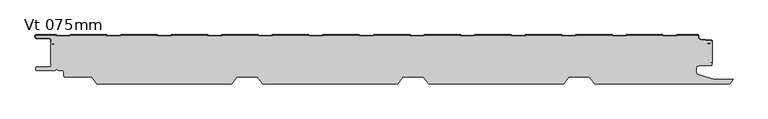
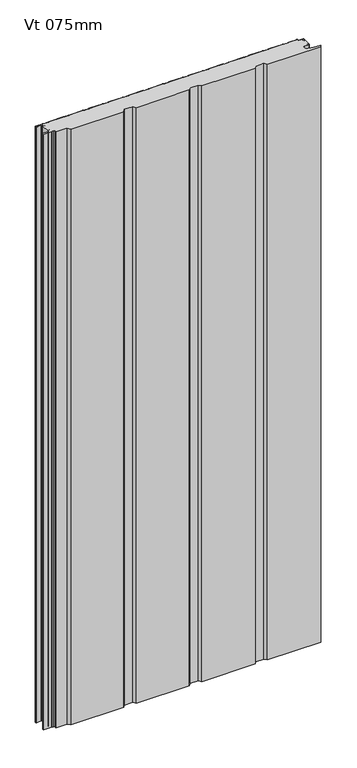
"""IFC4 building model written with IfcOpenShell, lengths in millimetres: plate geometry, KIP-MEX-KW-R19-CP-Vt-KW3_SL : Vt 075mm."""

from ifc_helpers import new_model, si_unit, point, frame, frame_2d, origin, origin_with_axes, place, context, project, spatial, polyline, circle_curve, trimmed, segment, composite_curve, outline, extrude, source, transform, mapped, element, save
from ifc_brep_helpers import plane_surface, cylinder_surface, revolved_surface, advanced_brep


def vt_075mm_114747fd(model_context):
    return source(origin(), model_context, "Body", "SolidModel", [
        advanced_brep(
        [(488.7785899, -14.1740781, 2400.0), (488.6914342, -13.1778834, 2400.0), (494.4799801, -12.6714513, 2400.0), (495.7350457, -11.7512327, 2400.0), (495.7350457, -9.8277288, 2400.0), (494.4792848, -8.9074494, 2400.0), (478.1842394, -7.4894566, 2400.0), (475.4443161, -4.5007512, 2400.0), (475.4443161, -1.0007512, 2400.0), (443.8382986, -1.0007512, 2400.0), (442.7532001, -2.1994992, 2400.0), (422.8212217, -2.1994992, 2400.0), (421.7346975, -1.0, 2400.0), (367.6854138, -1.0, 2400.0), (366.6003153, -2.1994992, 2400.0), (346.668337, -2.1994992, 2400.0), (345.5818127, -1.0, 2400.0), (291.5325291, -1.0, 2400.0), (290.4474305, -2.1994992, 2400.0), (270.5154522, -2.1994992, 2400.0), (269.4289279, -1.0, 2400.0), (215.3796443, -1.0, 2400.0), (214.2945458, -2.1994992, 2400.0), (194.3625675, -2.1994992, 2400.0), (193.2760432, -1.0, 2400.0), (139.2267595, -1.0, 2400.0), (138.141661, -2.1994992, 2400.0), (118.2096827, -2.1994992, 2400.0), (117.1231584, -1.0, 2400.0), (63.0738748, -1.0, 2400.0), (61.9887763, -2.1994992, 2400.0), (42.0567979, -2.1994992, 2400.0), (40.9702737, -1.0, 2400.0), (-13.07901, -1.0, 2400.0), (-14.1641085, -2.1994992, 2400.0), (-34.0960868, -2.1994992, 2400.0), (-35.1826111, -1.0, 2400.0), (-89.230469, -1.0, 2400.0), (-90.3169933, -2.1994992, 2400.0), (-110.2489716, -2.1994992, 2400.0), (-111.3354959, -1.0, 2400.0), (-165.3847795, -1.0, 2400.0), (-166.469878, -2.1994992, 2400.0), (-186.4018563, -2.1994992, 2400.0), (-187.4883806, -1.0, 2400.0), (-241.5362385, -1.0, 2400.0), (-242.6227628, -2.1994992, 2400.0), (-262.5547411, -2.1994992, 2400.0), (-263.6412654, -1.0, 2400.0), (-317.6891233, -1.0, 2400.0), (-318.7756475, -2.1994992, 2400.0), (-338.7076259, -2.1994992, 2400.0), (-339.7941501, -1.0, 2400.0), (-393.842008, -1.0, 2400.0), (-394.9285323, -2.1994992, 2400.0), (-414.8605106, -2.1994992, 2400.0), (-415.9470349, -1.0, 2400.0), (-469.9948928, -1.0, 2400.0), (-471.0814171, -2.1994992, 2400.0), (-491.0133954, -2.1994992, 2400.0), (-492.0999197, -1.0, 2400.0), (-522.505765, -1.0, 2400.0), (-522.505765, -2.5012654, 2400.0), (-520.006135, -5.0008953, 2400.0), (-502.0093092, -5.0008953, 2400.0), (-499.0079862, -8.000131, 2400.0), (-499.0079862, -11.5959732, 2400.0), (-497.766763, -13.0740828, 2400.0), (-494.2244631, -13.6959552, 2400.0), (-494.3973742, -14.6808886, 2400.0), (-497.9396714, -14.0590166, 2400.0), (-500.0000002, -11.7956848, 2400.0), (-500.0000002, -44.3622712, 2400.0), (-497.5115855, -41.8719911, 2400.0), (-492.2480458, -41.8719911, 2400.0), (-492.2480458, -42.8888414, 2400.0), (-497.5062725, -42.8888414, 2400.0), (-499.0056881, -44.3893811, 2400.0), (-499.0056881, -45.8143642, 2400.0), (-502.0059127, -48.8979571, 2400.0), (-521.0430726, -48.8979571, 2400.0), (-522.5064405, -50.3983418, 2400.0), (-522.5064405, -52.3814897, 2400.0), (-521.0062107, -53.8817196, 2400.0), (-493.1202477, -53.8817196, 2400.0), (-490.7060117, -51.4674051, 2400.0), (-488.2917757, -53.8815626, 2400.0), (-482.7060145, -53.8815626, 2400.0), (-479.7060088, -56.8815682, 2400.0), (-479.7060088, -62.3815743, 2400.0), (-478.2556825, -63.8807501, 2400.0), (-438.275811, -63.8807501, 2400.0), (-430.367997, -74.0007512, 2400.0), (-227.3369096, -74.0007512, 2400.0), (-219.3363087, -64.0, 2400.0), (-188.375059, -64.0, 2400.0), (-180.375059, -74.0, 2400.0), (22.6636913, -74.0, 2400.0), (30.6636913, -64.0, 2400.0), (61.624941, -64.0, 2400.0), (69.624941, -74.0, 2400.0), (272.6636913, -74.0, 2400.0), (280.6636913, -64.0, 2400.0), (311.624941, -64.0, 2400.0), (319.6255419, -74.0007512, 2400.0), (522.656057, -74.0007512, 2400.0), (527.9339159, -67.2461374, 2400.0), (499.5757533, -67.2461374, 2400.0), (474.8575959, -60.1479029, 2400.0), (472.6935242, -57.2749195, 2400.0), (472.6935242, -49.8076629, 2400.0), (475.71441, -46.786777, 2400.0), (494.2379226, -46.786777, 2400.0), (495.7320319, -45.2926678, 2400.0), (495.7320319, -43.743257, 2400.0), (494.2336758, -42.244901, 2400.0), (489.7350458, -42.244901, 2400.0), (489.7350458, -41.2447029, 2400.0), (494.2339235, -41.2447029, 2400.0), (496.7325767, -43.7433561, 2400.0), (496.7325767, -11.9319683, 2400.0), (494.5671358, -13.667646, 2400.0), (488.7785899, -14.1740781, 0.0), (494.5671358, -13.667646, 0.0), (496.7325767, -11.9319683, 0.0), (496.7325767, -43.7433561, 0.0), (494.2339235, -41.2447029, 0.0), (489.7350458, -41.2447029, 0.0), (489.7350458, -42.244901, 0.0), (494.2336758, -42.244901, 0.0), (495.7320319, -43.743257, 0.0), (495.7320319, -45.2926678, 0.0), (494.2379226, -46.786777, 0.0), (475.71441, -46.786777, 0.0), (472.6935242, -49.8076629, 0.0), (472.6935242, -57.2749195, 0.0), (474.8575958, -60.1479032, 0.0), (499.5757533, -67.2461374, 0.0), (527.9339159, -67.2461374, 0.0), (522.656057, -74.0007512, 0.0), (319.6255419, -74.0007512, 0.0), (311.624941, -64.0, 0.0), (280.6636913, -64.0, 0.0), (272.6636913, -74.0, 0.0), (69.624941, -74.0, 0.0), (61.624941, -64.0, 0.0), (30.6636913, -64.0, 0.0), (22.6636913, -74.0, 0.0), (-180.375059, -74.0, 0.0), (-188.375059, -64.0, 0.0), (-219.3363087, -64.0, 0.0), (-227.3369096, -74.0007512, 0.0), (-430.367997, -74.0007512, 0.0), (-438.275811, -63.8807501, 0.0), (-478.2556825, -63.8807501, 0.0), (-479.7060088, -62.3815743, 0.0), (-479.7060088, -56.8815682, 0.0), (-482.7060145, -53.8815626, 0.0), (-488.2917757, -53.8815626, 0.0), (-490.7060117, -51.4674051, 0.0), (-493.1202477, -53.8817196, 0.0), (-521.0062107, -53.8817196, 0.0), (-522.5064405, -52.3814897, 0.0), (-522.5064405, -50.3983418, 0.0), (-521.0430726, -48.8979571, 0.0), (-502.0059127, -48.8979571, 0.0), (-499.0056881, -45.8143642, 0.0), (-499.0056881, -44.3893811, 0.0), (-497.5062725, -42.8888414, 0.0), (-492.2480458, -42.8888414, 0.0), (-492.2480458, -41.8719911, 0.0), (-497.5115855, -41.8719911, 0.0), (-500.0000002, -44.3622712, 0.0), (-500.0000002, -11.7956848, 0.0), (-497.9396714, -14.0590167, 0.0), (-494.3973742, -14.6808886, 0.0), (-494.2244631, -13.6959552, 0.0), (-497.766763, -13.0740827, 0.0), (-499.0079862, -11.5959732, 0.0), (-499.0079862, -8.000131, 0.0), (-502.0093092, -5.0008953, 0.0), (-520.006135, -5.0008953, 0.0), (-522.505765, -2.5012654, 0.0), (-522.505765, -1.0, 0.0), (-492.0999197, -1.0, 0.0), (-491.0133954, -2.1994992, 0.0), (-471.0814171, -2.1994992, 0.0), (-469.9948928, -1.0, 0.0), (-415.9470349, -1.0, 0.0), (-414.8605106, -2.1994992, 0.0), (-394.9285323, -2.1994992, 0.0), (-393.842008, -1.0, 0.0), (-339.7941501, -1.0, 0.0), (-338.7076259, -2.1994992, 0.0), (-318.7756475, -2.1994992, 0.0), (-317.6891233, -1.0, 0.0), (-263.6412654, -1.0, 0.0), (-262.5547411, -2.1994992, 0.0), (-242.6227628, -2.1994992, 0.0), (-241.5362385, -1.0, 0.0), (-187.4883806, -1.0, 0.0), (-186.4018563, -2.1994992, 0.0), (-166.469878, -2.1994992, 0.0), (-165.3847795, -1.0, 0.0), (-111.3354959, -1.0, 0.0), (-110.2489716, -2.1994992, 0.0), (-90.3169933, -2.1994992, 0.0), (-89.230469, -1.0, 0.0), (-35.1826111, -1.0, 0.0), (-34.0960868, -2.1994992, 0.0), (-14.1641085, -2.1994992, 0.0), (-13.07901, -1.0, 0.0), (40.9702737, -1.0, 0.0), (42.0567979, -2.1994992, 0.0), (61.9887763, -2.1994992, 0.0), (63.0738748, -1.0, 0.0), (117.1231584, -1.0, 0.0), (118.2096827, -2.1994992, 0.0), (138.141661, -2.1994992, 0.0), (139.2267595, -1.0, 0.0), (193.2760432, -1.0, 0.0), (194.3625675, -2.1994992, 0.0), (214.2945458, -2.1994992, 0.0), (215.3796443, -1.0, 0.0), (269.4289279, -1.0, 0.0), (270.5154522, -2.1994992, 0.0), (290.4474305, -2.1994992, 0.0), (291.5325291, -1.0, 0.0), (345.5818127, -1.0, 0.0), (346.668337, -2.1994992, 0.0), (366.6003153, -2.1994992, 0.0), (367.6854138, -1.0, 0.0), (421.7346975, -1.0, 0.0), (422.8212217, -2.1994992, 0.0), (442.7532001, -2.1994992, 0.0), (443.8382986, -1.0007512, 0.0), (475.4443161, -1.0007512, 0.0), (475.4443161, -4.5007512, 0.0), (478.1842394, -7.4894566, 0.0), (494.4792848, -8.9074494, 0.0), (495.7350457, -9.8277288, 0.0), (495.7350457, -11.7512327, 0.0), (494.4799801, -12.6714513, 0.0), (488.6914342, -13.1778834, 0.0)],
        [
            (0, 1),
            (1, 2),
            (2, 3, circle_curve(frame((494.3492464, -11.1771592, 2400.0), z_axis=(0.0, 0.0, 1.0), x_axis=(-1.0, 0.0, 0.0)), 1.5)),
            (3, 4),
            (4, 5, circle_curve(frame((494.3492464, -10.4018021, 2400.0), z_axis=(0.0, 0.0, 1.0), x_axis=(-1.0, 0.0, 0.0)), 1.4999999)),
            (5, 6),
            (6, 7, circle_curve(frame((478.4443161, -4.5007512, 2400.0), z_axis=(0.0, 0.0, -1.0), x_axis=(-1.0, 0.0, 0.0)), 3.0)),
            (7, 8),
            (8, 9),
            (9, 10),
            (10, 11),
            (11, 12),
            (12, 13),
            (13, 14),
            (14, 15),
            (15, 16),
            (16, 17),
            (17, 18),
            (18, 19),
            (19, 20),
            (20, 21),
            (21, 22),
            (22, 23),
            (23, 24),
            (24, 25),
            (25, 26),
            (26, 27),
            (27, 28),
            (28, 29),
            (29, 30),
            (30, 31),
            (31, 32),
            (32, 33),
            (33, 34),
            (34, 35),
            (35, 36),
            (36, 37),
            (37, 38),
            (38, 39),
            (39, 40),
            (40, 41),
            (41, 42),
            (42, 43),
            (43, 44),
            (44, 45),
            (45, 46),
            (46, 47),
            (47, 48),
            (48, 49),
            (49, 50),
            (50, 51),
            (51, 52),
            (52, 53),
            (53, 54),
            (54, 55),
            (55, 56),
            (56, 57),
            (57, 58),
            (58, 59),
            (59, 60),
            (60, 61),
            (61, 62),
            (62, 63, circle_curve(frame((-520.006135, -2.5012654, 2400.0), z_axis=(0.0, 0.0, 1.0), x_axis=(-1.0, 0.0, 0.0)), 2.4996299)),
            (63, 64),
            (64, 65, circle_curve(frame((-502.0093092, -8.002219, 2400.0), z_axis=(0.0, 0.0, -1.0), x_axis=(-1.0, 0.0, 0.0)), 3.0013237)),
            (65, 66),
            (66, 67, circle_curve(frame((-497.5072719, -11.5959732, 2400.0), z_axis=(0.0, 0.0, 1.0), x_axis=(-1.0, 0.0, 0.0)), 1.5007143)),
            (67, 68),
            (68, 69),
            (69, 70),
            (70, 71, circle_curve(frame((-497.5072673, -11.5959632, 2400.0), z_axis=(0.0, 0.0, -1.0), x_axis=(-1.0, 0.0, 0.0)), 2.500721)),
            (71, 72),
            (72, 73, circle_curve(frame((-497.5097194, -44.3622712, 2400.0), z_axis=(0.0, 0.0, -1.0), x_axis=(0.0, 1.0, 0.0)), 2.4902807)),
            (73, 74),
            (74, 75),
            (75, 76),
            (76, 77, circle_curve(frame((-497.5051479, -44.3893811, 2400.0), z_axis=(0.0, 0.0, 1.0), x_axis=(0.0, 1.0, 0.0)), 1.5005402)),
            (77, 78),
            (78, 79, circle_curve(frame((-502.0059127, -45.8966056, 2400.0), z_axis=(0.0, 0.0, -1.0), x_axis=(0.0, 1.0, 0.0)), 3.0013516)),
            (79, 80),
            (80, 81, circle_curve(frame((-521.0055876, -50.3983418, 2400.0), z_axis=(0.0, 0.0, 1.0), x_axis=(0.0, 1.0, 0.0)), 1.5008529)),
            (81, 82),
            (82, 83, circle_curve(frame((-521.0062107, -52.3814897, 2400.0), z_axis=(0.0, 0.0, 1.0), x_axis=(0.0, 1.0, 0.0)), 1.5002298)),
            (83, 84),
            (84, 85),
            (85, 86),
            (86, 87),
            (87, 88, circle_curve(frame((-482.7060145, -56.8815682, 2400.0), z_axis=(0.0, 0.0, -1.0), x_axis=(0.0, 1.0, 0.0)), 3.0000056)),
            (88, 89),
            (89, 90, circle_curve(frame((-478.2060104, -62.3815743, 2400.0), z_axis=(0.0, 0.0, 1.0), x_axis=(0.0, 1.0, 0.0)), 1.4999984)),
            (90, 91),
            (91, 92),
            (92, 93),
            (93, 94),
            (94, 95),
            (95, 96),
            (96, 97),
            (97, 98),
            (98, 99),
            (99, 100),
            (100, 101),
            (101, 102),
            (102, 103),
            (103, 104),
            (104, 105),
            (105, 106),
            (106, 107),
            (107, 108),
            (108, 109, circle_curve(frame((475.6826214, -57.2749195, 2400.0), z_axis=(0.0, 0.0, -1.0), x_axis=(0.0, 1.0, 0.0)), 2.9890972)),
            (109, 110),
            (110, 111, circle_curve(frame((475.71441, -49.8076629, 2400.0), z_axis=(0.0, 0.0, -1.0), x_axis=(0.0, 1.0, 0.0)), 3.0208858)),
            (111, 112),
            (112, 113, circle_curve(frame((494.2379226, -45.2926678, 2400.0), z_axis=(0.0, 0.0, 1.0), x_axis=(0.0, 1.0, 0.0)), 1.4941093)),
            (113, 114),
            (114, 115, circle_curve(frame((494.2336758, -43.743257, 2400.0), z_axis=(0.0, 0.0, 1.0), x_axis=(0.0, 1.0, 0.0)), 1.4983561)),
            (115, 116),
            (116, 117),
            (117, 118),
            (118, 119, circle_curve(frame((494.2339235, -43.7433561, 2400.0), z_axis=(0.0, 0.0, -1.0), x_axis=(0.0, 1.0, 0.0)), 2.4986532)),
            (119, 120),
            (120, 121, circle_curve(frame((494.3492464, -11.1771592, 2400.0), z_axis=(0.0, 0.0, -1.0), x_axis=(-1.0, 0.0, 0.0)), 2.5)),
            (121, 0),
            (122, 123),
            (123, 124, circle_curve(frame((494.3492464, -11.1771592, 0.0), z_axis=(0.0, 0.0, 1.0), x_axis=(-1.0, 0.0, 0.0)), 2.5)),
            (124, 125),
            (125, 126, circle_curve(frame((494.2339235, -43.7433561, 0.0), z_axis=(0.0, 0.0, 1.0), x_axis=(0.0, 1.0, 0.0)), 2.4986532)),
            (126, 127),
            (127, 128),
            (128, 129),
            (129, 130, circle_curve(frame((494.2336758, -43.743257, 0.0), z_axis=(0.0, 0.0, -1.0), x_axis=(0.0, 1.0, 0.0)), 1.4983561)),
            (130, 131),
            (131, 132, circle_curve(frame((494.2379226, -45.2926678, 0.0), z_axis=(0.0, 0.0, -1.0), x_axis=(0.0, 1.0, 0.0)), 1.4941093)),
            (132, 133),
            (133, 134, circle_curve(frame((475.71441, -49.8076629, 0.0), z_axis=(0.0, 0.0, 1.0), x_axis=(0.0, 1.0, 0.0)), 3.0208858)),
            (134, 135),
            (135, 136, circle_curve(frame((475.6826214, -57.2749195, 0.0), z_axis=(0.0, 0.0, 1.0), x_axis=(0.0, 1.0, 0.0)), 2.9890972)),
            (136, 137),
            (137, 138),
            (138, 139),
            (139, 140),
            (140, 141),
            (141, 142),
            (142, 143),
            (143, 144),
            (144, 145),
            (145, 146),
            (146, 147),
            (147, 148),
            (148, 149),
            (149, 150),
            (150, 151),
            (151, 152),
            (152, 153),
            (153, 154),
            (154, 155, circle_curve(frame((-478.2060104, -62.3815743, 0.0), z_axis=(0.0, 0.0, -1.0), x_axis=(0.0, 1.0, 0.0)), 1.4999984)),
            (155, 156),
            (156, 157, circle_curve(frame((-482.7060145, -56.8815682, 0.0), z_axis=(0.0, 0.0, 1.0), x_axis=(0.0, 1.0, 0.0)), 3.0000056)),
            (157, 158),
            (158, 159),
            (159, 160),
            (160, 161),
            (161, 162, circle_curve(frame((-521.0062107, -52.3814897, 0.0), z_axis=(0.0, 0.0, -1.0), x_axis=(0.0, 1.0, 0.0)), 1.5002298)),
            (162, 163),
            (163, 164, circle_curve(frame((-521.0055876, -50.3983418, 0.0), z_axis=(0.0, 0.0, -1.0), x_axis=(0.0, 1.0, 0.0)), 1.5008529)),
            (164, 165),
            (165, 166, circle_curve(frame((-502.0059127, -45.8966056, 0.0), z_axis=(0.0, 0.0, 1.0), x_axis=(0.0, 1.0, 0.0)), 3.0013516)),
            (166, 167),
            (167, 168, circle_curve(frame((-497.5051479, -44.3893811, 0.0), z_axis=(0.0, 0.0, -1.0), x_axis=(0.0, 1.0, 0.0)), 1.5005402)),
            (168, 169),
            (169, 170),
            (170, 171),
            (171, 172, circle_curve(frame((-497.5097194, -44.3622712, 0.0), z_axis=(0.0, 0.0, 1.0), x_axis=(0.0, 1.0, 0.0)), 2.4902807)),
            (172, 173),
            (173, 174, circle_curve(frame((-497.5072673, -11.5959632, 0.0), z_axis=(0.0, 0.0, 1.0), x_axis=(-1.0, 0.0, 0.0)), 2.500721)),
            (174, 175),
            (175, 176),
            (176, 177),
            (177, 178, circle_curve(frame((-497.5072719, -11.5959732, 0.0), z_axis=(0.0, 0.0, -1.0), x_axis=(-1.0, 0.0, 0.0)), 1.5007143)),
            (178, 179),
            (179, 180, circle_curve(frame((-502.0093092, -8.002219, 0.0), z_axis=(0.0, 0.0, 1.0), x_axis=(-1.0, 0.0, 0.0)), 3.0013237)),
            (180, 181),
            (181, 182, circle_curve(frame((-520.006135, -2.5012654, 0.0), z_axis=(0.0, 0.0, -1.0), x_axis=(-1.0, 0.0, 0.0)), 2.4996299)),
            (182, 183),
            (183, 184),
            (184, 185),
            (185, 186),
            (186, 187),
            (187, 188),
            (188, 189),
            (189, 190),
            (190, 191),
            (191, 192),
            (192, 193),
            (193, 194),
            (194, 195),
            (195, 196),
            (196, 197),
            (197, 198),
            (198, 199),
            (199, 200),
            (200, 201),
            (201, 202),
            (202, 203),
            (203, 204),
            (204, 205),
            (205, 206),
            (206, 207),
            (207, 208),
            (208, 209),
            (209, 210),
            (210, 211),
            (211, 212),
            (212, 213),
            (213, 214),
            (214, 215),
            (215, 216),
            (216, 217),
            (217, 218),
            (218, 219),
            (219, 220),
            (220, 221),
            (221, 222),
            (222, 223),
            (223, 224),
            (224, 225),
            (225, 226),
            (226, 227),
            (227, 228),
            (228, 229),
            (229, 230),
            (230, 231),
            (231, 232),
            (232, 233),
            (233, 234),
            (234, 235),
            (235, 236),
            (236, 237),
            (237, 238, circle_curve(frame((478.4443161, -4.5007512, 0.0), z_axis=(0.0, 0.0, 1.0), x_axis=(-1.0, 0.0, 0.0)), 3.0)),
            (238, 239),
            (239, 240, circle_curve(frame((494.3492464, -10.4018021, 0.0), z_axis=(0.0, 0.0, -1.0), x_axis=(-1.0, 0.0, 0.0)), 1.4999999)),
            (240, 241),
            (241, 242, circle_curve(frame((494.3492464, -11.1771592, 0.0), z_axis=(0.0, 0.0, -1.0), x_axis=(-1.0, 0.0, 0.0)), 1.5)),
            (242, 243),
            (243, 122),
            (121, 123),
            (122, 0),
            (120, 124),
            (119, 125),
            (118, 126),
            (117, 127),
            (116, 128),
            (115, 129),
            (114, 130),
            (113, 131),
            (112, 132),
            (111, 133),
            (110, 134),
            (109, 135),
            (108, 136),
            (107, 137),
            (106, 138),
            (105, 139),
            (104, 140),
            (92, 152),
            (151, 93),
            (91, 153),
            (90, 154),
            (89, 155),
            (88, 156),
            (87, 157),
            (86, 158),
            (85, 159),
            (84, 160),
            (83, 161),
            (82, 162),
            (81, 163),
            (80, 164),
            (79, 165),
            (78, 166),
            (77, 167),
            (76, 168),
            (75, 169),
            (74, 170),
            (73, 171),
            (72, 172),
            (71, 173),
            (70, 174),
            (69, 175),
            (68, 176),
            (67, 177),
            (66, 178),
            (65, 179),
            (64, 180),
            (63, 181),
            (62, 182),
            (61, 183),
            (60, 184),
            (59, 185),
            (58, 186),
            (57, 187),
            (56, 188),
            (55, 189),
            (54, 190),
            (53, 191),
            (52, 192),
            (51, 193),
            (50, 194),
            (49, 195),
            (48, 196),
            (47, 197),
            (46, 198),
            (45, 199),
            (44, 200),
            (43, 201),
            (42, 202),
            (41, 203),
            (40, 204),
            (39, 205),
            (38, 206),
            (37, 207),
            (36, 208),
            (35, 209),
            (34, 210),
            (33, 211),
            (32, 212),
            (31, 213),
            (30, 214),
            (29, 215),
            (28, 216),
            (27, 217),
            (26, 218),
            (25, 219),
            (24, 220),
            (23, 221),
            (22, 222),
            (21, 223),
            (20, 224),
            (19, 225),
            (18, 226),
            (17, 227),
            (16, 228),
            (15, 229),
            (14, 230),
            (13, 231),
            (12, 232),
            (11, 233),
            (10, 234),
            (9, 235),
            (8, 236),
            (7, 237),
            (6, 238),
            (5, 239),
            (4, 240),
            (3, 241),
            (2, 242),
            (1, 243),
            (103, 141),
            (102, 142),
            (101, 143),
            (100, 144),
            (99, 145),
            (98, 146),
            (97, 147),
            (96, 148),
            (95, 149),
            (94, 150),
        ],
        [
            plane_surface(frame((-1.6597565, -74.0, 2400.0), z_axis=(0.0, 0.0, 1.0), x_axis=(0.0, -1.0, 0.0))),
            plane_surface(frame((-1.6597565, -74.0, 0.0), z_axis=(0.0, 0.0, -1.0), x_axis=(0.0, -1.0, 0.0))),
            plane_surface(frame((488.7785899, -14.1740781, 2400.0), z_axis=(-0.08715574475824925, 0.9961946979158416, 0.0), x_axis=(0.0, 0.0, -1.0))),
            revolved_surface(polyline([(491.8492464, -11.1771592, 0.0), (491.8492464, -11.1771592, 2400.0)]), (494.3492464, -11.1771592, 2400.0), (0.0, 0.0, -1.0)),
            plane_surface(frame((496.7325767, -11.9319683, 2400.0), z_axis=(1.0, 0.0, 0.0), x_axis=(0.0, 0.0, -1.0))),
            revolved_surface(polyline([(494.2339235, -41.2447029, 0.0), (494.2339235, -41.2447029, 2400.0)]), (494.2339235, -43.7433561, 2400.0), (0.0, 0.0, -1.0)),
            plane_surface(frame((494.2339235, -41.2447029, 2400.0), z_axis=(0.0, -1.0, 0.0), x_axis=(0.0, 0.0, -1.0))),
            plane_surface(frame((489.7350458, -41.2447029, 2400.0), z_axis=(1.0, 0.0, 0.0), x_axis=(0.0, 0.0, -1.0))),
            plane_surface(frame((489.7350458, -42.244901, 2400.0), z_axis=(0.0, 1.0, 0.0), x_axis=(0.0, 0.0, -1.0))),
            cylinder_surface(frame((494.2336758, -43.743257, 2400.0), z_axis=(0.0, 0.0, 1.0), x_axis=(0.0, 1.0, 0.0)), 1.4983561),
            plane_surface(frame((495.7320319, -43.743257, 2400.0), z_axis=(1.0, 0.0, 0.0), x_axis=(0.0, 0.0, -1.0))),
            cylinder_surface(frame((494.2379226, -45.2926678, 2400.0), z_axis=(0.0, 0.0, 1.0), x_axis=(0.0, 1.0, 0.0)), 1.4941093),
            plane_surface(frame((494.2379226, -46.786777, 2400.0), z_axis=(0.0, -1.0, 0.0), x_axis=(0.0, 0.0, -1.0))),
            revolved_surface(polyline([(475.71441, -46.786777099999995, 0.0), (475.71441, -46.786777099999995, 2400.0)]), (475.71441, -49.8076629, 2400.0), (0.0, 0.0, -1.0)),
            plane_surface(frame((472.6935242, -49.8076629, 2400.0), z_axis=(1.0, 0.0, 0.0), x_axis=(0.0, 0.0, -1.0))),
            revolved_surface(polyline([(475.6826214, -54.28582230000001, 0.0), (475.6826214, -54.28582230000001, 2400.0)]), (475.6826214, -57.2749195, 2400.0), (0.0, 0.0, -1.0)),
            plane_surface(frame((474.8575959, -60.1479029, 2400.0), z_axis=(0.27601161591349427, 0.9611542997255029, 0.0), x_axis=(0.0, 0.0, -1.0))),
            plane_surface(frame((499.5757533, -67.2461374, 2400.0), z_axis=(0.0, 1.0, 0.0), x_axis=(0.0, 0.0, -1.0))),
            plane_surface(frame((527.9339159, -67.2461374, 2400.0), z_axis=(0.7879781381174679, -0.6157032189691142, 0.0), x_axis=(0.0, 0.0, -1.0))),
            plane_surface(frame((522.656057, -74.0007512, 2400.0), z_axis=(0.0, -1.0, 0.0), x_axis=(0.0, 0.0, -1.0))),
            plane_surface(frame((-227.3369096, -74.0007512, 2400.0), z_axis=(0.0, -1.0, 0.0), x_axis=(0.0, 0.0, -1.0))),
            plane_surface(frame((-430.367997, -74.0007512, 2400.0), z_axis=(-0.7879653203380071, -0.6157196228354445, 0.0), x_axis=(0.0, 0.0, -1.0))),
            plane_surface(frame((-438.275811, -63.8807501, 2400.0), z_axis=(0.0, -1.0, 0.0), x_axis=(0.0, 0.0, -1.0))),
            cylinder_surface(frame((-478.2060104, -62.3815743, 2400.0), z_axis=(0.0, 0.0, 1.0), x_axis=(0.0, 1.0, 0.0)), 1.4999984),
            plane_surface(frame((-479.7060088, -62.3815743, 2400.0), z_axis=(-1.0, 0.0, 0.0), x_axis=(0.0, 0.0, -1.0))),
            revolved_surface(polyline([(-482.7060145, -53.881562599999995, 0.0), (-482.7060145, -53.881562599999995, 2400.0)]), (-482.7060145, -56.8815682, 2400.0), (0.0, 0.0, -1.0)),
            plane_surface(frame((-482.7060145, -53.8815626, 2400.0), z_axis=(0.0, -1.0, 0.0), x_axis=(0.0, 0.0, -1.0))),
            plane_surface(frame((-488.2917757, -53.8815626, 2400.0), z_axis=(-0.7070952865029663, -0.707118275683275, 0.0), x_axis=(0.0, 0.0, -1.0))),
            plane_surface(frame((-490.7060117, -51.4674051, 2400.0), z_axis=(0.7071182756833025, -0.7070952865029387, 0.0), x_axis=(0.0, 0.0, -1.0))),
            plane_surface(frame((-493.1202477, -53.8817196, 2400.0), z_axis=(0.0, -1.0, 0.0), x_axis=(0.0, 0.0, -1.0))),
            cylinder_surface(frame((-521.0062107, -52.3814897, 2400.0), z_axis=(0.0, 0.0, 1.0), x_axis=(0.0, 1.0, 0.0)), 1.5002298),
            plane_surface(frame((-522.5064405, -52.3814897, 2400.0), z_axis=(-1.0, 0.0, 0.0), x_axis=(0.0, 0.0, -1.0))),
            cylinder_surface(frame((-521.0055876, -50.3983418, 2400.0), z_axis=(0.0, 0.0, 1.0), x_axis=(0.0, 1.0, 0.0)), 1.5008529),
            plane_surface(frame((-521.0430726, -48.8979571, 2400.0), z_axis=(0.0, 1.0, 0.0), x_axis=(0.0, 0.0, -1.0))),
            revolved_surface(polyline([(-502.0059127, -42.895254, 0.0), (-502.0059127, -42.895254, 2400.0)]), (-502.0059127, -45.8966056, 2400.0), (0.0, 0.0, -1.0)),
            plane_surface(frame((-499.0056881, -45.8143642, 2400.0), z_axis=(-1.0, 0.0, 0.0), x_axis=(0.0, 0.0, -1.0))),
            cylinder_surface(frame((-497.5051479, -44.3893811, 2400.0), z_axis=(0.0, 0.0, 1.0), x_axis=(0.0, 1.0, 0.0)), 1.5005402),
            plane_surface(frame((-497.5062725, -42.8888414, 2400.0), z_axis=(0.0, 1.0, 0.0), x_axis=(0.0, 0.0, -1.0))),
            plane_surface(frame((-492.2480458, -42.8888414, 2400.0), z_axis=(-1.0, 0.0, 0.0), x_axis=(0.0, 0.0, -1.0))),
            plane_surface(frame((-492.2480458, -41.8719911, 2400.0), z_axis=(0.0, -1.0, 0.0), x_axis=(0.0, 0.0, -1.0))),
            revolved_surface(polyline([(-497.5097194, -41.8719905, 0.0), (-497.5097194, -41.8719905, 2400.0)]), (-497.5097194, -44.3622712, 2400.0), (0.0, 0.0, -1.0)),
            plane_surface(frame((-500.0000002, -44.3622712, 2400.0), z_axis=(-1.0, 0.0, 0.0), x_axis=(0.0, 0.0, -1.0))),
            revolved_surface(polyline([(-500.0079883, -11.5959632, 0.0), (-500.0079883, -11.5959632, 2400.0)]), (-497.5072673, -11.5959632, 2400.0), (0.0, 0.0, -1.0)),
            plane_surface(frame((-497.9396714, -14.0590166, 2400.0), z_axis=(0.17291178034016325, 0.9849373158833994, 0.0), x_axis=(0.0, 0.0, -1.0))),
            plane_surface(frame((-494.3973742, -14.6808886, 2400.0), z_axis=(-0.9849373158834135, 0.17291178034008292, 0.0), x_axis=(0.0, 0.0, -1.0))),
            plane_surface(frame((-494.2244631, -13.6959552, 2400.0), z_axis=(-0.17291178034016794, -0.9849373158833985, 0.0), x_axis=(0.0, 0.0, -1.0))),
            cylinder_surface(frame((-497.5072719, -11.5959732, 2400.0), z_axis=(0.0, 0.0, 1.0), x_axis=(-1.0, 0.0, 0.0)), 1.5007143),
            plane_surface(frame((-499.0079862, -11.5959732, 2400.0), z_axis=(-1.0, 0.0, 0.0), x_axis=(0.0, 0.0, -1.0))),
            revolved_surface(polyline([(-505.0106329, -8.002219, 0.0), (-505.0106329, -8.002219, 2400.0)]), (-502.0093092, -8.002219, 2400.0), (0.0, 0.0, -1.0)),
            plane_surface(frame((-502.0093092, -5.0008953, 2400.0), z_axis=(0.0, -1.0, 0.0), x_axis=(0.0, 0.0, -1.0))),
            cylinder_surface(frame((-520.006135, -2.5012654, 2400.0), z_axis=(0.0, 0.0, 1.0), x_axis=(-1.0, 0.0, 0.0)), 2.4996299),
            plane_surface(frame((-522.505765, -2.5012654, 2400.0), z_axis=(-1.0, 0.0, 0.0), x_axis=(0.0, 0.0, -1.0))),
            plane_surface(frame((-522.505765, -1.0, 2400.0), z_axis=(0.0, 1.0, 0.0), x_axis=(0.0, 0.0, -1.0))),
            plane_surface(frame((-492.0999197, -1.0, 2400.0), z_axis=(0.7411473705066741, 0.671342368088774, 0.0), x_axis=(0.0, 0.0, -1.0))),
            plane_surface(frame((-491.0133954, -2.1994992, 2400.0), z_axis=(0.0, 1.0, 0.0), x_axis=(0.0, 0.0, -1.0))),
            plane_surface(frame((-471.0814171, -2.1994992, 2400.0), z_axis=(-0.7411473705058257, 0.6713423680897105, 0.0), x_axis=(0.0, 0.0, -1.0))),
            plane_surface(frame((-469.9948928, -1.0, 2400.0), z_axis=(0.0, 1.0, 0.0), x_axis=(0.0, 0.0, -1.0))),
            plane_surface(frame((-415.9470349, -1.0, 2400.0), z_axis=(0.7411473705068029, 0.6713423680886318, 0.0), x_axis=(0.0, 0.0, -1.0))),
            plane_surface(frame((-414.8605106, -2.1994992, 2400.0), z_axis=(0.0, 1.0, 0.0), x_axis=(0.0, 0.0, -1.0))),
            plane_surface(frame((-394.9285323, -2.1994992, 2400.0), z_axis=(-0.7411473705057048, 0.671342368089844, 0.0), x_axis=(0.0, 0.0, -1.0))),
            plane_surface(frame((-393.842008, -1.0, 2400.0), z_axis=(0.0, 1.0, 0.0), x_axis=(0.0, 0.0, -1.0))),
            plane_surface(frame((-339.7941501, -1.0, 2400.0), z_axis=(0.7411473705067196, 0.6713423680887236, 0.0), x_axis=(0.0, 0.0, -1.0))),
            plane_surface(frame((-338.7076259, -2.1994992, 2400.0), z_axis=(0.0, 1.0, 0.0), x_axis=(0.0, 0.0, -1.0))),
            plane_surface(frame((-318.7756475, -2.1994992, 2400.0), z_axis=(-0.7411473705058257, 0.6713423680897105, 0.0), x_axis=(0.0, 0.0, -1.0))),
            plane_surface(frame((-317.6891233, -1.0, 2400.0), z_axis=(0.0, 1.0, 0.0), x_axis=(0.0, 0.0, -1.0))),
            plane_surface(frame((-263.6412654, -1.0, 2400.0), z_axis=(0.7411473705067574, 0.6713423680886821, 0.0), x_axis=(0.0, 0.0, -1.0))),
            plane_surface(frame((-262.5547411, -2.1994992, 2400.0), z_axis=(0.0, 1.0, 0.0), x_axis=(0.0, 0.0, -1.0))),
            plane_surface(frame((-242.6227628, -2.1994992, 2400.0), z_axis=(-0.7411473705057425, 0.6713423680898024, 0.0), x_axis=(0.0, 0.0, -1.0))),
            plane_surface(frame((-241.5362385, -1.0, 2400.0), z_axis=(0.0, 1.0, 0.0), x_axis=(0.0, 0.0, -1.0))),
            plane_surface(frame((-187.4883806, -1.0, 2400.0), z_axis=(0.7411473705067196, 0.6713423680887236, 0.0), x_axis=(0.0, 0.0, -1.0))),
            plane_surface(frame((-186.4018563, -2.1994992, 2400.0), z_axis=(0.0, 1.0, 0.0), x_axis=(0.0, 0.0, -1.0))),
            plane_surface(frame((-166.469878, -2.1994992, 2400.0), z_axis=(-0.7415858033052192, 0.6708580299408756, 0.0), x_axis=(0.0, 0.0, -1.0))),
            plane_surface(frame((-165.3847795, -1.0, 2400.0), z_axis=(0.0, 1.0, 0.0), x_axis=(0.0, 0.0, -1.0))),
            plane_surface(frame((-111.3354959, -1.0, 2400.0), z_axis=(0.7411473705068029, 0.6713423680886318, 0.0), x_axis=(0.0, 0.0, -1.0))),
            plane_surface(frame((-110.2489716, -2.1994992, 2400.0), z_axis=(0.0, 1.0, 0.0), x_axis=(0.0, 0.0, -1.0))),
            plane_surface(frame((-90.3169933, -2.1994992, 2400.0), z_axis=(-0.7411473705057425, 0.6713423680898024, 0.0), x_axis=(0.0, 0.0, -1.0))),
            plane_surface(frame((-89.230469, -1.0, 2400.0), z_axis=(0.0, 1.0, 0.0), x_axis=(0.0, 0.0, -1.0))),
            plane_surface(frame((-35.1826111, -1.0, 2400.0), z_axis=(0.7411473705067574, 0.6713423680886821, 0.0), x_axis=(0.0, 0.0, -1.0))),
            plane_surface(frame((-34.0960868, -2.1994992, 2400.0), z_axis=(0.0, 1.0, 0.0), x_axis=(0.0, 0.0, -1.0))),
            plane_surface(frame((-14.1641085, -2.1994992, 2400.0), z_axis=(-0.7415858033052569, 0.670858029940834, 0.0), x_axis=(0.0, 0.0, -1.0))),
            plane_surface(frame((-13.07901, -1.0, 2400.0), z_axis=(0.0, 1.0, 0.0), x_axis=(0.0, 0.0, -1.0))),
            plane_surface(frame((40.9702737, -1.0, 2400.0), z_axis=(0.7411473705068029, 0.6713423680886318, 0.0), x_axis=(0.0, 0.0, -1.0))),
            plane_surface(frame((42.0567979, -2.1994992, 2400.0), z_axis=(0.0, 1.0, 0.0), x_axis=(0.0, 0.0, -1.0))),
            plane_surface(frame((61.9887763, -2.1994992, 2400.0), z_axis=(-0.7415858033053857, 0.6708580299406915, 0.0), x_axis=(0.0, 0.0, -1.0))),
            plane_surface(frame((63.0738748, -1.0, 2400.0), z_axis=(0.0, 1.0, 0.0), x_axis=(0.0, 0.0, -1.0))),
            plane_surface(frame((117.1231584, -1.0, 2400.0), z_axis=(0.7411473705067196, 0.6713423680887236, 0.0), x_axis=(0.0, 0.0, -1.0))),
            plane_surface(frame((118.2096827, -2.1994992, 2400.0), z_axis=(0.0, 1.0, 0.0), x_axis=(0.0, 0.0, -1.0))),
            plane_surface(frame((138.141661, -2.1994992, 2400.0), z_axis=(-0.7415858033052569, 0.670858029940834, 0.0), x_axis=(0.0, 0.0, -1.0))),
            plane_surface(frame((139.2267595, -1.0, 2400.0), z_axis=(0.0, 1.0, 0.0), x_axis=(0.0, 0.0, -1.0))),
            plane_surface(frame((193.2760432, -1.0, 2400.0), z_axis=(0.7411473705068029, 0.6713423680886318, 0.0), x_axis=(0.0, 0.0, -1.0))),
            plane_surface(frame((194.3625675, -2.1994992, 2400.0), z_axis=(0.0, 1.0, 0.0), x_axis=(0.0, 0.0, -1.0))),
            plane_surface(frame((214.2945458, -2.1994992, 2400.0), z_axis=(-0.7415858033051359, 0.6708580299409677, 0.0), x_axis=(0.0, 0.0, -1.0))),
            plane_surface(frame((215.3796443, -1.0, 2400.0), z_axis=(0.0, 1.0, 0.0), x_axis=(0.0, 0.0, -1.0))),
            plane_surface(frame((269.4289279, -1.0, 2400.0), z_axis=(0.7411473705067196, 0.6713423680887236, 0.0), x_axis=(0.0, 0.0, -1.0))),
            plane_surface(frame((270.5154522, -2.1994992, 2400.0), z_axis=(0.0, 1.0, 0.0), x_axis=(0.0, 0.0, -1.0))),
            plane_surface(frame((290.4474305, -2.1994992, 2400.0), z_axis=(-0.7415858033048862, 0.6708580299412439, 0.0), x_axis=(0.0, 0.0, -1.0))),
            plane_surface(frame((291.5325291, -1.0, 2400.0), z_axis=(0.0, 1.0, 0.0), x_axis=(0.0, 0.0, -1.0))),
            plane_surface(frame((345.5818127, -1.0, 2400.0), z_axis=(0.7411473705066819, 0.6713423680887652, 0.0), x_axis=(0.0, 0.0, -1.0))),
            plane_surface(frame((346.668337, -2.1994992, 2400.0), z_axis=(0.0, 1.0, 0.0), x_axis=(0.0, 0.0, -1.0))),
            plane_surface(frame((366.6003153, -2.1994992, 2400.0), z_axis=(-0.7415858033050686, 0.6708580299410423, 0.0), x_axis=(0.0, 0.0, -1.0))),
            plane_surface(frame((367.6854138, -1.0, 2400.0), z_axis=(0.0, 1.0, 0.0), x_axis=(0.0, 0.0, -1.0))),
            plane_surface(frame((421.7346975, -1.0, 2400.0), z_axis=(0.7411473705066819, 0.6713423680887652, 0.0), x_axis=(0.0, 0.0, -1.0))),
            plane_surface(frame((422.8212217, -2.1994992, 2400.0), z_axis=(0.0, 1.0, 0.0), x_axis=(0.0, 0.0, -1.0))),
            plane_surface(frame((442.7532001, -2.1994992, 2400.0), z_axis=(-0.7413766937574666, 0.6710891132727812, 0.0), x_axis=(0.0, 0.0, -1.0))),
            plane_surface(frame((443.8382986, -1.0007512, 2400.0), z_axis=(0.0, 1.0, 0.0), x_axis=(0.0, 0.0, -1.0))),
            plane_surface(frame((475.4443161, -1.0007512, 2400.0), z_axis=(1.0, 0.0, 0.0), x_axis=(0.0, 0.0, -1.0))),
            revolved_surface(polyline([(475.4443161, -4.5007512, 0.0), (475.4443161, -4.5007512, 2400.0)]), (478.4443161, -4.5007512, 2400.0), (0.0, 0.0, -1.0)),
            plane_surface(frame((478.1842394, -7.4894566, 2400.0), z_axis=(0.08669225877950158, 0.9962351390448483, 0.0), x_axis=(0.0, 0.0, -1.0))),
            cylinder_surface(frame((494.3492464, -10.4018021, 2400.0), z_axis=(0.0, 0.0, 1.0), x_axis=(-1.0, 0.0, 0.0)), 1.4999999),
            plane_surface(frame((495.7350457, -9.8277288, 2400.0), z_axis=(1.0, 0.0, 0.0), x_axis=(0.0, 0.0, -1.0))),
            cylinder_surface(frame((494.3492464, -11.1771592, 2400.0), z_axis=(0.0, 0.0, 1.0), x_axis=(-1.0, 0.0, 0.0)), 1.5),
            plane_surface(frame((494.4799801, -12.6714513, 2400.0), z_axis=(0.08715574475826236, -0.9961946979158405, 0.0), x_axis=(0.0, 0.0, -1.0))),
            plane_surface(frame((488.6914342, -13.1778834, 2400.0), z_axis=(0.9961946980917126, 0.08715574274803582, 0.0), x_axis=(0.0, 0.0, -1.0))),
            plane_surface(frame((319.6255419, -74.0007512, 2400.0), z_axis=(-0.7808688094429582, -0.6246950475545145, 0.0), x_axis=(0.0, 0.0, -1.0))),
            plane_surface(frame((311.624941, -64.0, 2400.0), z_axis=(0.0, -1.0, 0.0), x_axis=(0.0, 0.0, -1.0))),
            plane_surface(frame((280.6636913, -64.0, 2400.0), z_axis=(0.7808688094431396, -0.6246950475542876, 0.0), x_axis=(0.0, 0.0, -1.0))),
            plane_surface(frame((272.6636913, -74.0, 2400.0), z_axis=(0.0, -1.0, 0.0), x_axis=(0.0, 0.0, -1.0))),
            plane_surface(frame((69.624941, -74.0, 2400.0), z_axis=(-0.7808688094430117, -0.6246950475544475, 0.0), x_axis=(0.0, 0.0, -1.0))),
            plane_surface(frame((61.624941, -64.0, 2400.0), z_axis=(0.0, -1.0, 0.0), x_axis=(0.0, 0.0, -1.0))),
            plane_surface(frame((30.6636913, -64.0, 2400.0), z_axis=(0.7808688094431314, -0.6246950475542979, 0.0), x_axis=(0.0, 0.0, -1.0))),
            plane_surface(frame((22.6636913, -74.0, 2400.0), z_axis=(0.0, -1.0, 0.0), x_axis=(0.0, 0.0, -1.0))),
            plane_surface(frame((-180.375059, -74.0, 2400.0), z_axis=(-0.7808688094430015, -0.6246950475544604, 0.0), x_axis=(0.0, 0.0, -1.0))),
            plane_surface(frame((-188.375059, -64.0, 2400.0), z_axis=(0.0, -1.0, 0.0), x_axis=(0.0, 0.0, -1.0))),
            plane_surface(frame((-219.3363087, -64.0, 2400.0), z_axis=(0.7808688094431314, -0.6246950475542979, 0.0), x_axis=(0.0, 0.0, -1.0))),
        ],
        [
            (0, [[1, 2, 3, 4, 5, 6, 7, 8, 9, 10, 11, 12, 13, 14, 15, 16, 17, 18, 19, 20, 21, 22, 23, 24, 25, 26, 27, 28, 29, 30, 31, 32, 33, 34, 35, 36, 37, 38, 39, 40, 41, 42, 43, 44, 45, 46, 47, 48, 49, 50, 51, 52, 53, 54, 55, 56, 57, 58, 59, 60, 61, 62, 63, 64, 65, 66, 67, 68, 69, 70, 71, 72, 73, 74, 75, 76, 77, 78, 79, 80, 81, 82, 83, 84, 85, 86, 87, 88, 89, 90, 91, 92, 93, 94, 95, 96, 97, 98, 99, 100, 101, 102, 103, 104, 105, 106, 107, 108, 109, 110, 111, 112, 113, 114, 115, 116, 117, 118, 119, 120, 121, 122]]),
            (1, [[123, 124, 125, 126, 127, 128, 129, 130, 131, 132, 133, 134, 135, 136, 137, 138, 139, 140, 141, 142, 143, 144, 145, 146, 147, 148, 149, 150, 151, 152, 153, 154, 155, 156, 157, 158, 159, 160, 161, 162, 163, 164, 165, 166, 167, 168, 169, 170, 171, 172, 173, 174, 175, 176, 177, 178, 179, 180, 181, 182, 183, 184, 185, 186, 187, 188, 189, 190, 191, 192, 193, 194, 195, 196, 197, 198, 199, 200, 201, 202, 203, 204, 205, 206, 207, 208, 209, 210, 211, 212, 213, 214, 215, 216, 217, 218, 219, 220, 221, 222, 223, 224, 225, 226, 227, 228, 229, 230, 231, 232, 233, 234, 235, 236, 237, 238, 239, 240, 241, 242, 243, 244]]),
            (2, [[245, -123, 246, -122]]),
            (3, [[247, -124, -245, -121]]),
            (4, [[248, -125, -247, -120]]),
            (5, [[249, -126, -248, -119]]),
            (6, [[250, -127, -249, -118]]),
            (7, [[251, -128, -250, -117]]),
            (8, [[252, -129, -251, -116]]),
            (9, [[253, -130, -252, -115]]),
            (10, [[254, -131, -253, -114]]),
            (11, [[255, -132, -254, -113]]),
            (12, [[256, -133, -255, -112]]),
            (13, [[257, -134, -256, -111]]),
            (14, [[258, -135, -257, -110]]),
            (15, [[259, -136, -258, -109]]),
            (16, [[260, -137, -259, -108]]),
            (17, [[261, -138, -260, -107]]),
            (18, [[262, -139, -261, -106]]),
            (19, [[263, -140, -262, -105]]),
            (20, [[264, -152, 265, -93]]),
            (21, [[266, -153, -264, -92]]),
            (22, [[267, -154, -266, -91]]),
            (23, [[268, -155, -267, -90]]),
            (24, [[269, -156, -268, -89]]),
            (25, [[270, -157, -269, -88]]),
            (26, [[271, -158, -270, -87]]),
            (27, [[272, -159, -271, -86]]),
            (28, [[273, -160, -272, -85]]),
            (29, [[274, -161, -273, -84]]),
            (30, [[275, -162, -274, -83]]),
            (31, [[276, -163, -275, -82]]),
            (32, [[277, -164, -276, -81]]),
            (33, [[278, -165, -277, -80]]),
            (34, [[279, -166, -278, -79]]),
            (35, [[280, -167, -279, -78]]),
            (36, [[281, -168, -280, -77]]),
            (37, [[282, -169, -281, -76]]),
            (38, [[283, -170, -282, -75]]),
            (39, [[284, -171, -283, -74]]),
            (40, [[285, -172, -284, -73]]),
            (41, [[286, -173, -285, -72]]),
            (42, [[287, -174, -286, -71]]),
            (43, [[288, -175, -287, -70]]),
            (44, [[289, -176, -288, -69]]),
            (45, [[290, -177, -289, -68]]),
            (46, [[291, -178, -290, -67]]),
            (47, [[292, -179, -291, -66]]),
            (48, [[293, -180, -292, -65]]),
            (49, [[294, -181, -293, -64]]),
            (50, [[295, -182, -294, -63]]),
            (51, [[296, -183, -295, -62]]),
            (52, [[297, -184, -296, -61]]),
            (53, [[298, -185, -297, -60]]),
            (54, [[299, -186, -298, -59]]),
            (55, [[300, -187, -299, -58]]),
            (56, [[301, -188, -300, -57]]),
            (57, [[302, -189, -301, -56]]),
            (58, [[303, -190, -302, -55]]),
            (59, [[304, -191, -303, -54]]),
            (60, [[305, -192, -304, -53]]),
            (61, [[306, -193, -305, -52]]),
            (62, [[307, -194, -306, -51]]),
            (63, [[308, -195, -307, -50]]),
            (64, [[309, -196, -308, -49]]),
            (65, [[310, -197, -309, -48]]),
            (66, [[311, -198, -310, -47]]),
            (67, [[312, -199, -311, -46]]),
            (68, [[313, -200, -312, -45]]),
            (69, [[314, -201, -313, -44]]),
            (70, [[315, -202, -314, -43]]),
            (71, [[316, -203, -315, -42]]),
            (72, [[317, -204, -316, -41]]),
            (73, [[318, -205, -317, -40]]),
            (74, [[319, -206, -318, -39]]),
            (75, [[320, -207, -319, -38]]),
            (76, [[321, -208, -320, -37]]),
            (77, [[322, -209, -321, -36]]),
            (78, [[323, -210, -322, -35]]),
            (79, [[324, -211, -323, -34]]),
            (80, [[325, -212, -324, -33]]),
            (81, [[326, -213, -325, -32]]),
            (82, [[327, -214, -326, -31]]),
            (83, [[328, -215, -327, -30]]),
            (84, [[329, -216, -328, -29]]),
            (85, [[330, -217, -329, -28]]),
            (86, [[331, -218, -330, -27]]),
            (87, [[332, -219, -331, -26]]),
            (88, [[333, -220, -332, -25]]),
            (89, [[334, -221, -333, -24]]),
            (90, [[335, -222, -334, -23]]),
            (91, [[336, -223, -335, -22]]),
            (92, [[337, -224, -336, -21]]),
            (93, [[338, -225, -337, -20]]),
            (94, [[339, -226, -338, -19]]),
            (95, [[340, -227, -339, -18]]),
            (96, [[341, -228, -340, -17]]),
            (97, [[342, -229, -341, -16]]),
            (98, [[343, -230, -342, -15]]),
            (99, [[344, -231, -343, -14]]),
            (100, [[345, -232, -344, -13]]),
            (101, [[346, -233, -345, -12]]),
            (102, [[347, -234, -346, -11]]),
            (103, [[348, -235, -347, -10]]),
            (104, [[349, -236, -348, -9]]),
            (105, [[350, -237, -349, -8]]),
            (106, [[351, -238, -350, -7]]),
            (107, [[352, -239, -351, -6]]),
            (108, [[353, -240, -352, -5]]),
            (109, [[354, -241, -353, -4]]),
            (110, [[355, -242, -354, -3]]),
            (111, [[356, -243, -355, -2]]),
            (112, [[-246, -244, -356, -1]]),
            (113, [[357, -141, -263, -104]]),
            (114, [[358, -142, -357, -103]]),
            (115, [[359, -143, -358, -102]]),
            (116, [[360, -144, -359, -101]]),
            (117, [[361, -145, -360, -100]]),
            (118, [[362, -146, -361, -99]]),
            (119, [[363, -147, -362, -98]]),
            (120, [[364, -148, -363, -97]]),
            (121, [[365, -149, -364, -96]]),
            (122, [[366, -150, -365, -95]]),
            (123, [[-265, -151, -366, -94]]),
        ],
    ),
        extrude(outline(composite_curve([segment(polyline([(118.6531271, -1.1979254), (137.6982166, -1.1979254), (138.7847409, 0.0), (193.7209131, 0.0), (194.8060118, -1.1979254), (213.8511014, -1.1979254), (214.9376257, 0.0), (269.8737979, 0.0), (270.9588966, -1.1979254), (290.0039862, -1.1979254), (291.0905104, 0.0), (346.0266826, 0.0), (347.1117813, -1.1979254), (366.1568709, -1.1979254), (367.2433952, 0.0015738), (422.1781418, 0.0015738), (423.2646661, -1.1979254), (442.3097557, -1.1979254), (443.3948544, -0.0055391), (474.9615045, -0.0055391)]), True, "CONTINUOUS"), segment(trimmed(circle_curve(frame_2d((474.9615045, -1.4964154)), 1.4908762), [point((474.9615045, -0.0055391))], [point((476.4523807, -1.4964154))], False, "CARTESIAN"), True, "CONTINUOUS"), segment(polyline([(476.4523807, -1.4964154), (476.4523807, -4.5006431)]), True, "CONTINUOUS"), segment(trimmed(circle_curve(frame_2d((478.4479669, -4.5006431)), 1.9955862), [point((476.4523807, -4.5006431))], [point((478.2745674, -6.4886815))], True, "CARTESIAN"), True, "CONTINUOUS"), segment(polyline([(478.2745674, -6.4886815), (494.5664751, -7.9096839)]), True, "CONTINUOUS"), segment(trimmed(circle_curve(frame_2d((494.3492464, -10.4002283)), 2.4999999), [point((494.5664751, -7.9096839))], [point((496.7350457, -9.6532601))], False, "CARTESIAN"), True, "CONTINUOUS"), segment(polyline([(496.7350457, -9.6532601), (496.7350457, -11.9225538)]), True, "CONTINUOUS"), segment(trimmed(circle_curve(frame_2d((494.3492464, -11.1755854)), 2.5), [point((496.7350457, -11.9225538))], [point((494.5671358, -13.6660722))], False, "CARTESIAN"), True, "CONTINUOUS"), segment(polyline([(494.5671358, -13.6660722), (488.7785899, -14.1725043), (488.6914342, -13.1763096), (494.4799801, -12.6698775)]), True, "CONTINUOUS"), segment(trimmed(circle_curve(frame_2d((494.3492464, -11.1755854)), 1.5), [point((494.4799801, -12.6698775))], [point((495.7350457, -11.7496588))], True, "CARTESIAN"), True, "CONTINUOUS"), segment(polyline([(495.7350457, -11.7496588), (495.7350457, -9.826155)]), True, "CONTINUOUS"), segment(trimmed(circle_curve(frame_2d((494.3492464, -10.4002283)), 1.4999999), [point((495.7350457, -9.826155))], [point((494.4792848, -8.9058756))], True, "CARTESIAN"), True, "CONTINUOUS"), segment(polyline([(494.4792848, -8.9058756), (478.1842394, -7.4878828)]), True, "CONTINUOUS"), segment(trimmed(circle_curve(frame_2d((478.4443161, -4.4991773)), 3.0), [point((478.1842394, -7.4878828))], [point((475.4443161, -4.4991773))], False, "CARTESIAN"), True, "CONTINUOUS"), segment(polyline([(475.4443161, -4.4991773), (475.4443161, -0.9991773), (443.8382986, -0.9991773), (442.7532001, -2.1979254), (422.8212217, -2.1979254), (421.7346975, -0.9984262), (367.6868396, -0.9984262), (366.6003153, -2.1979254), (346.668337, -2.1979254), (345.5818127, -0.9984262), (291.5339548, -0.9984262), (290.4474305, -2.1979254), (270.5154522, -2.1979254), (269.4289279, -0.9984262), (215.3810701, -0.9984262), (214.2945458, -2.1979254), (194.3625675, -2.1979254), (193.2760432, -0.9984262), (139.2281853, -0.9984262), (138.141661, -2.1979254), (118.2096827, -2.1979254), (117.1231584, -0.9984262), (63.0753005, -0.9984262), (61.9887763, -2.1979254), (42.0567979, -2.1979254), (40.9702737, -0.9984262), (-13.0775842, -0.9984262), (-14.1641085, -2.1979254), (-34.0960868, -2.1979254), (-35.1826111, -0.9984262), (-89.230469, -0.9984262), (-90.3169933, -2.1979254), (-110.2489716, -2.1979254), (-111.3354959, -0.9984262), (-165.3833537, -0.9984262), (-166.469878, -2.1979254), (-186.4018563, -2.1979254), (-187.4883806, -0.9984262), (-241.5376643, -0.9984262), (-242.6227628, -2.1979254), (-262.5547411, -2.1979254), (-263.6412654, -0.9984262), (-317.690549, -0.9984262), (-318.7756475, -2.1979254), (-338.7076259, -2.1979254), (-339.7941501, -0.9984262), (-393.8434338, -0.9984262), (-394.9285323, -2.1979254), (-414.8605106, -2.1979254), (-415.9470349, -0.9984262), (-469.9963185, -0.9984262), (-471.0814171, -2.1979254), (-491.0133954, -2.1979254), (-492.0999197, -0.9984262), (-522.5058798, -0.9984262), (-522.5058798, -2.4998352)]), True, "CONTINUOUS"), segment(trimmed(circle_curve(frame_2d((-520.0060776, -2.4998352)), 2.4998022), [point((-522.5058798, -2.4998352))], [point((-520.0060776, -4.9996374))], True, "CARTESIAN"), True, "CONTINUOUS"), segment(polyline([(-520.0060776, -4.9996374), (-502.0051317, -4.9996374)]), True, "CONTINUOUS"), segment(trimmed(circle_curve(frame_2d((-502.0051317, -8.0003457)), 3.0007082), [point((-502.0051317, -4.9996374))], [point((-499.0044242, -7.9982581))], False, "CARTESIAN"), True, "CONTINUOUS"), segment(polyline([(-499.0044242, -7.9982581), (-499.0044242, -11.5945268)]), True, "CONTINUOUS"), segment(trimmed(circle_curve(frame_2d((-497.5040253, -11.5945268)), 1.5003989), [point((-499.0044242, -11.5945268))], [point((-497.7635336, -13.072313))], True, "CARTESIAN"), True, "CONTINUOUS"), segment(polyline([(-497.7635336, -13.072313), (-494.221459, -13.694323), (-494.3944395, -14.679371), (-497.9367141, -14.0573259)]), True, "CONTINUOUS"), segment(trimmed(circle_curve(frame_2d((-497.5042136, -11.5944251)), 2.5005873), [point((-497.9367141, -14.0573259))], [point((-500.0048005, -11.5958995))], False, "CARTESIAN"), True, "CONTINUOUS"), segment(polyline([(-500.0048005, -11.5958995), (-500.0048005, -7.9987586)]), True, "CONTINUOUS"), segment(trimmed(circle_curve(frame_2d((-502.0053162, -8.0002578)), 2.0005162), [point((-500.0048005, -7.9987586))], [point((-502.0053162, -5.9997416))], True, "CARTESIAN"), True, "CONTINUOUS"), segment(polyline([(-502.0053162, -5.9997416), (-520.0060752, -5.9997416)]), True, "CONTINUOUS"), segment(trimmed(circle_curve(frame_2d((-520.0060752, -2.4998716)), 3.49987), [point((-520.0060752, -5.9997416))], [point((-523.5059452, -2.4998716))], False, "CARTESIAN"), True, "CONTINUOUS"), segment(polyline([(-523.5059452, -2.4998716), (-523.5059452, -1.4999879)]), True, "CONTINUOUS"), segment(trimmed(circle_curve(frame_2d((-522.0059815, -1.4999879)), 1.4999637), [point((-523.5059452, -1.4999879))], [point((-522.0059815, -2.42e-05))], False, "CARTESIAN"), True, "CONTINUOUS"), segment(polyline([(-522.0059815, -2.42e-05), (-491.6550497, -2.42e-05), (-490.569951, -1.1979254), (-471.5248614, -1.1979254), (-470.4383372, 0.0), (-415.502165, 0.0), (-414.4170663, -1.1979254), (-395.3719767, -1.1979254), (-394.2854524, 0.0), (-339.3492802, 0.0), (-338.2641815, -1.1979254), (-319.2190919, -1.1979254), (-318.1325676, 0.0), (-263.1963954, 0.0), (-262.1112967, -1.1979254), (-243.0662072, -1.1979254), (-241.9796829, 0.0), (-187.0435107, 0.0), (-185.958412, -1.1979254), (-166.9133224, -1.1979254), (-165.8267981, 0.0), (-110.8906259, 0.0), (-109.8055272, -1.1979254), (-90.7604376, -1.1979254), (-89.6739134, 0.0), (-34.7377412, 0.0), (-33.6526425, -1.1979254), (-14.6075529, -1.1979254), (-13.5210286, 0.0), (41.4151436, 0.0), (42.5002423, -1.1979254), (61.5453319, -1.1979254), (62.6318562, 0.0), (117.5680284, 0.0), (118.6531271, -1.1979254)]), True, "CONTINUOUS")], self_intersect=False)), origin_with_axes(), (0.0, 0.0, 1.0), 2400.0),
    ])


if __name__ == "__main__":
    model = new_model("IFC4")
    model_context = context("Model", 3, world=origin())
    ifc_project = project(units=[si_unit("LENGTHUNIT", "METRE", prefix="MILLI")], contexts=[model_context])
    site = spatial("IfcSite", under=ifc_project)
    building = spatial("IfcBuilding", under=site)
    placement = place(None, origin())
    vt_075mm_shape = vt_075mm_114747fd(model_context)
    element("IfcPlate", 1, ObjectType="KIP-MEX-KW-R19-CP-Vt-KW3_SL : Vt 075mm", at=placement, inside=building, context=model_context, shape_type="MappedRepresentation", body=[
        mapped(vt_075mm_shape, transform((0.0, 0.0, 0.0), x_axis=(1.0, 0.0, 0.0), y_axis=(0.0, 1.0, 0.0), z_axis=(0.0, 0.0, 1.0))),
    ])
    save(model, "model.ifc")
